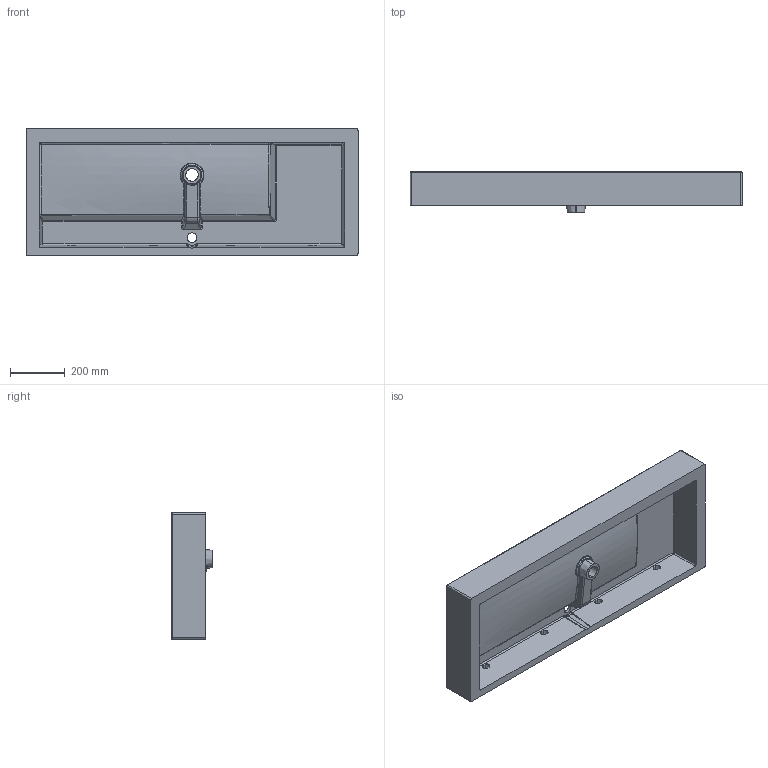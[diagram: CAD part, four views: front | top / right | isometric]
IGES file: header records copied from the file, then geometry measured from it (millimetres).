
Start section: SolidWorks IGES file using analytic representation for surfaces
Global section: file name: \\vmware-host\Shared Folders\Documenti\Lavoro\modifiche Tecla\3D-modifiche\TWENTY 121\PROJECT2017 120 Pdex.IGS; native system: SolidWorks 2017; preprocessor: SolidWorks 2017; author: silvia; date: 171109.163201; units: millimetre
Bounding box: 1210 x 150 x 460 mm (x, y, z)
Surface area: 1962406.2 mm2 (no closed solid volume)
Topology: 0 solids, 0 shells, 186 faces, 2364 edges, 2355 vertices
Faces by surface type: bspline 94, revolution 92
